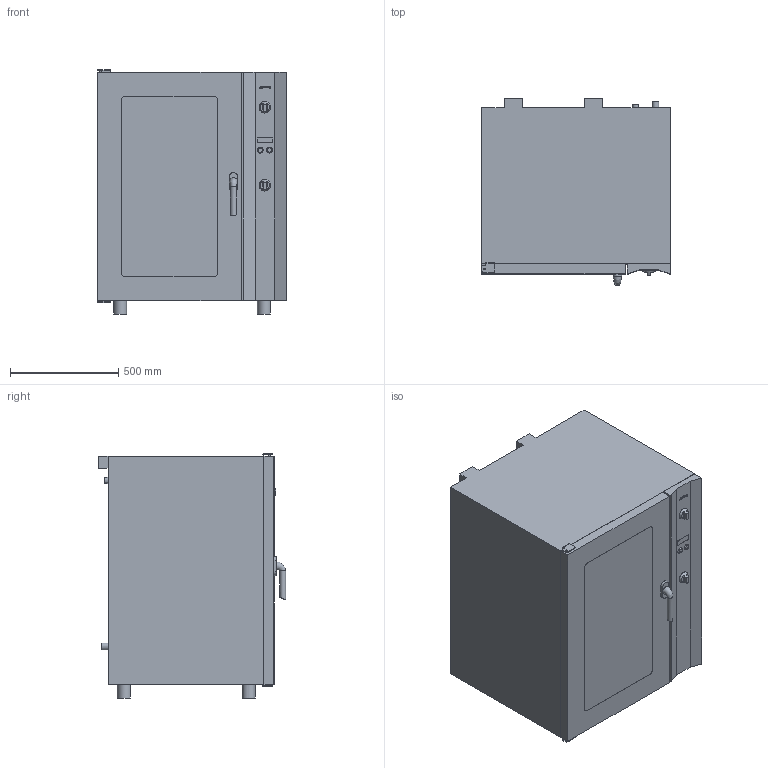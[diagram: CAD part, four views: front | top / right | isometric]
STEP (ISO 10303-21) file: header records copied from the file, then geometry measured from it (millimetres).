
FILE_DESCRIPTION(/* description */ (''),/* implementation_level */ '2;1');
FILE_NAME(/* name */ 'ALFA1035EH.stp',/* time_stamp */ '2017-10-05T15:48:55+02:00',/* author */ (''),/* organization */ (''),/* preprocessor_version */ 'ST-DEVELOPER v16',/* originating_system */ 'SIEMENS PLM Software NX 11.0',/* authorisation */ '');
FILE_SCHEMA (('AUTOMOTIVE_DESIGN { 1 0 10303 214 3 1 1 1 }'));
Length unit declared in the file: millimetre
Products named in the file (1): gras93108CA2c86o
Bounding box: 872 x 864.2 x 1125.8 mm (x, y, z)
Volume: 701809444.4 mm3; surface area: 9421916.3 mm2
Topology: 24 solids, 24 shells, 248 faces, 548 edges, 364 vertices
Faces by surface type: plane 160, cylinder 72, extrusion 11, cone 4, bspline 1
Full cylindrical faces by diameter (mm): 4.608 x6, 9 x2, 10 x4, 18.363 x1, 20 x2, 27 x1, 28 x1, 31 x1, 54 x2, 60 x4
Entity records: 7375 total; most frequent: CARTESIAN_POINT 1771, DIRECTION 1106, ORIENTED_EDGE 1030, EDGE_CURVE 515, AXIS2_PLACEMENT_3D 382, VERTEX_POINT 361, VECTOR 342, LINE 331
